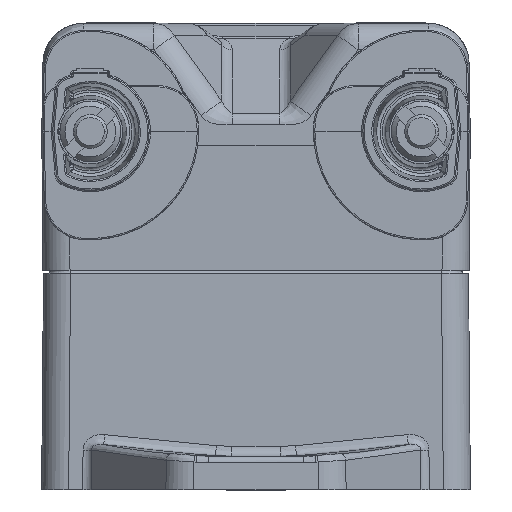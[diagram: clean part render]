
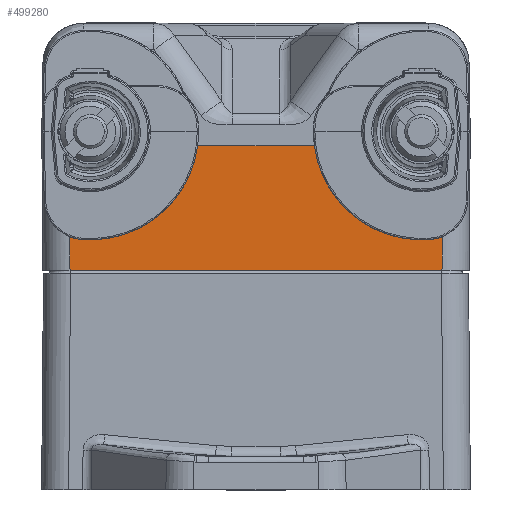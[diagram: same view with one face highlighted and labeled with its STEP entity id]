
A CAD part, left-side view. The second image highlights one B-rep face of the part: STEP entity #499280.
In plain terms, the highlighted planar face has unit normal (-1, 0, -0.009) as drawn and (-1, 0, 0.009) by its records, which use the part's own axes.
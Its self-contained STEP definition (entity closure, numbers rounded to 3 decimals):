
#43570=CARTESIAN_POINT('',(-54.089,-27.594,
-40.494));
#43580=VERTEX_POINT('',#43570);
#110680=CARTESIAN_POINT('',(-54.089,27.594,
-40.494));
#110690=VERTEX_POINT('',#110680);
#110720=CARTESIAN_POINT('',(-54.089,27.594,
-40.494));
#110730=CARTESIAN_POINT('',(-54.089,27.522,
-40.471));
#110740=CARTESIAN_POINT('',(-54.088,27.449,
-40.449));
#110750=CARTESIAN_POINT('',(-54.085,26.094,
-40.05));
#110760=CARTESIAN_POINT('',(-54.084,24.746,
-39.928));
#110770=CARTESIAN_POINT('',(-54.087,21.728,
-40.252));
#110780=CARTESIAN_POINT('',(-54.092,20.118,
-40.848));
#110790=CARTESIAN_POINT('',(-54.109,17.33,
-42.764));
#110800=CARTESIAN_POINT('',(-54.12,16.196,
-44.054));
#110810=CARTESIAN_POINT('',(-54.145,14.722,
-46.928));
#110820=CARTESIAN_POINT('',(-54.158,14.339,
-48.437));
#110830=CARTESIAN_POINT('',(-54.172,14.301,
-50.05));
#110840=CARTESIAN_POINT('',(-54.173,14.3,
-50.124));
#110850=CARTESIAN_POINT('',(-54.173,14.3,
-50.2));
#110860=B_SPLINE_CURVE_WITH_KNOTS('',3,(#110720,#110730,#110740,#110750,
#110760,#110770,#110780,#110790,#110800,#110810,#110820,#110830,#110840,
#110850),.UNSPECIFIED.,.F.,.F.,(4,2,2,2,2,2,4),(0.,0.211,
3.927,8.604,13.282,17.537,
17.757),.UNSPECIFIED.);
#110870=CARTESIAN_POINT('',(-54.173,14.3,
-50.2));
#110880=VERTEX_POINT('',#110870);
#110890=EDGE_CURVE('',#110690,#110880,#110860,.T.);
#145400=CARTESIAN_POINT('',(-54.173,-14.3,
-50.2));
#145410=VERTEX_POINT('',#145400);
#145440=CARTESIAN_POINT('',(-54.173,-14.3,
-50.2));
#145450=CARTESIAN_POINT('',(-54.173,-14.3,
-50.124));
#145460=CARTESIAN_POINT('',(-54.172,-14.301,
-50.05));
#145470=CARTESIAN_POINT('',(-54.158,-14.339,
-48.437));
#145480=CARTESIAN_POINT('',(-54.145,-14.722,
-46.928));
#145490=CARTESIAN_POINT('',(-54.12,-16.196,
-44.054));
#145500=CARTESIAN_POINT('',(-54.109,-17.33,
-42.764));
#145510=CARTESIAN_POINT('',(-54.092,-20.118,
-40.848));
#145520=CARTESIAN_POINT('',(-54.087,-21.728,
-40.252));
#145530=CARTESIAN_POINT('',(-54.084,-24.746,
-39.928));
#145540=CARTESIAN_POINT('',(-54.085,-26.094,
-40.05));
#145550=CARTESIAN_POINT('',(-54.088,-27.449,
-40.449));
#145560=CARTESIAN_POINT('',(-54.089,-27.522,
-40.471));
#145570=CARTESIAN_POINT('',(-54.089,-27.594,
-40.494));
#145580=B_SPLINE_CURVE_WITH_KNOTS('',3,(#145440,#145450,#145460,#145470,
#145480,#145490,#145500,#145510,#145520,#145530,#145540,#145550,#145560,
#145570),.UNSPECIFIED.,.F.,.F.,(4,2,2,2,2,2,4),(0.,0.22,
4.475,9.153,13.83,17.546,
17.757),.UNSPECIFIED.);
#145590=EDGE_CURVE('',#145410,#43580,#145580,.T.);
#154660=CARTESIAN_POINT('',(-54.067,10.531,
-38.));
#154670=DIRECTION('',(0.008,-0.259,
0.966));
#154680=VECTOR('',#154670,1.);
#154690=LINE('',#154660,#154680);
#154700=CARTESIAN_POINT('',(-54.173,13.8,
-50.2));
#154710=VERTEX_POINT('',#154700);
#154720=CARTESIAN_POINT('',(-54.155,13.234,
-48.086));
#154730=VERTEX_POINT('',#154720);
#154740=EDGE_CURVE('',#154710,#154730,#154690,.T.);
#159030=CARTESIAN_POINT('',(-54.155,31.08,
-48.086));
#159040=DIRECTION('',(0.,1.,0.));
#159050=VECTOR('',#159040,1.);
#159060=LINE('',#159030,#159050);
#159070=CARTESIAN_POINT('',(-54.155,-13.234,
-48.086));
#159080=VERTEX_POINT('',#159070);
#159090=EDGE_CURVE('',#159080,#154730,#159060,.T.);
#174320=CARTESIAN_POINT('',(-54.173,-13.8,
-50.2));
#174330=VERTEX_POINT('',#174320);
#174360=CARTESIAN_POINT('',(-54.173,-31.08,
-50.2));
#174370=DIRECTION('',(0.,1.,0.));
#174380=VECTOR('',#174370,1.);
#174390=LINE('',#174360,#174380);
#174400=EDGE_CURVE('',#145410,#174330,#174390,.T.);
#175850=CARTESIAN_POINT('',(-54.173,-31.08,
-50.2));
#175860=DIRECTION('',(0.,1.,0.));
#175870=VECTOR('',#175860,1.);
#175880=LINE('',#175850,#175870);
#175890=EDGE_CURVE('',#154710,#110880,#175880,.T.);
#203080=CARTESIAN_POINT('',(-53.995,27.5,-29.7));
#203090=VERTEX_POINT('',#203080);
#203120=CARTESIAN_POINT('',(-54.067,27.572,
-37.965));
#203130=DIRECTION('',(0.009,-0.009,
1.));
#203140=VECTOR('',#203130,1.);
#203150=LINE('',#203120,#203140);
#203160=EDGE_CURVE('',#110690,#203090,#203150,.T.);
#385970=CARTESIAN_POINT('',(-54.067,-10.531,
-38.));
#385980=DIRECTION('',(0.008,0.259,
0.966));
#385990=VECTOR('',#385980,1.);
#386000=LINE('',#385970,#385990);
#386010=EDGE_CURVE('',#174330,#159080,#386000,.T.);
#498990=CARTESIAN_POINT('',(-53.995,31.08,-29.7));
#499000=DIRECTION('',(1.,0.,
-0.009));
#499010=DIRECTION('',(0.,-1.,0.));
#499020=AXIS2_PLACEMENT_3D('',#498990,#499000,#499010);
#499030=PLANE('',#499020);
#499040=ORIENTED_EDGE('',*,*,#145590,.T.);
#499050=ORIENTED_EDGE('',*,*,#174400,.F.);
#499060=ORIENTED_EDGE('',*,*,#386010,.F.);
#499070=ORIENTED_EDGE('',*,*,#159090,.F.);
#499080=ORIENTED_EDGE('',*,*,#154740,.T.);
#499090=ORIENTED_EDGE('',*,*,#175890,.F.);
#499100=ORIENTED_EDGE('',*,*,#110890,.T.);
#499110=ORIENTED_EDGE('',*,*,#203160,.F.);
#499120=CARTESIAN_POINT('',(-53.995,31.08,-29.7));
#499130=DIRECTION('',(0.,-1.,0.));
#499140=VECTOR('',#499130,1.);
#499150=LINE('',#499120,#499140);
#499160=CARTESIAN_POINT('',(-53.995,-27.5,-29.7));
#499170=VERTEX_POINT('',#499160);
#499180=EDGE_CURVE('',#203090,#499170,#499150,.T.);
#499190=ORIENTED_EDGE('',*,*,#499180,.F.);
#499200=CARTESIAN_POINT('',(-54.067,-27.572,
-37.965));
#499210=DIRECTION('',(0.009,0.009,
1.));
#499220=VECTOR('',#499210,1.);
#499230=LINE('',#499200,#499220);
#499240=EDGE_CURVE('',#43580,#499170,#499230,.T.);
#499250=ORIENTED_EDGE('',*,*,#499240,.T.);
#499260=EDGE_LOOP('',(#499250,#499190,#499110,#499100,#499090,#499080,
#499070,#499060,#499050,#499040));
#499270=FACE_OUTER_BOUND('',#499260,.T.);
#499280=ADVANCED_FACE('',(#499270),#499030,.F.);
